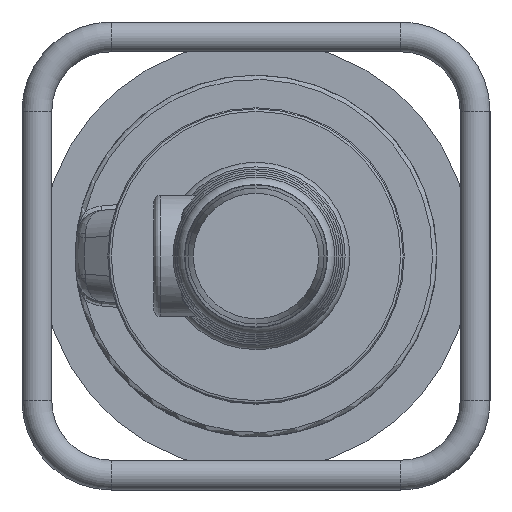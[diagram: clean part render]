
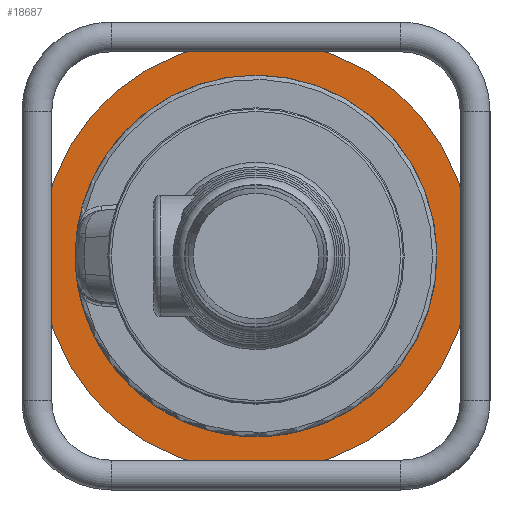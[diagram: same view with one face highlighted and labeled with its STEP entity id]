
A CAD part, left-side view. The second image highlights one B-rep face of the part: STEP entity #18687.
In plain terms, the highlighted planar face has unit normal (-1, 0, 0).
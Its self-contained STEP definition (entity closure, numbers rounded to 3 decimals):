
#134=FACE_BOUND('',#5992,.T.);
#967=PLANE('',#19825);
#4889=FACE_OUTER_BOUND('',#5991,.T.);
#5991=EDGE_LOOP('',(#15876));
#5992=EDGE_LOOP('',(#15877));
#6585=CIRCLE('',#19802,101.5);
#6587=CIRCLE('',#19826,85.);
#8431=VERTEX_POINT('',#42105);
#8433=VERTEX_POINT('',#42132);
#10941=EDGE_CURVE('',#8431,#8431,#6585,.T.);
#10944=EDGE_CURVE('',#8433,#8433,#6587,.T.);
#15876=ORIENTED_EDGE('',*,*,#10941,.T.);
#15877=ORIENTED_EDGE('',*,*,#10944,.T.);
#18687=ADVANCED_FACE('',(#4889,#134),#967,.T.);
#19802=AXIS2_PLACEMENT_3D('',#42106,#23138,#23139);
#19825=AXIS2_PLACEMENT_3D('',#42131,#23185,#23186);
#19826=AXIS2_PLACEMENT_3D('',#42133,#23187,#23188);
#23138=DIRECTION('center_axis',(-1.,0.,0.));
#23139=DIRECTION('ref_axis',(0.,0.016,-1.));
#23185=DIRECTION('center_axis',(-1.,0.,0.));
#23186=DIRECTION('ref_axis',(0.,-0.016,1.));
#23187=DIRECTION('center_axis',(1.,0.,0.));
#23188=DIRECTION('ref_axis',(0.,0.,
-1.));
#42105=CARTESIAN_POINT('',(0.,0.,101.5));
#42106=CARTESIAN_POINT('Origin',(0.,0.,
0.));
#42131=CARTESIAN_POINT('Origin',(0.,22.997,
0.372));
#42132=CARTESIAN_POINT('',(0.,0.,
85.));
#42133=CARTESIAN_POINT('Origin',(0.,0.,
0.));
